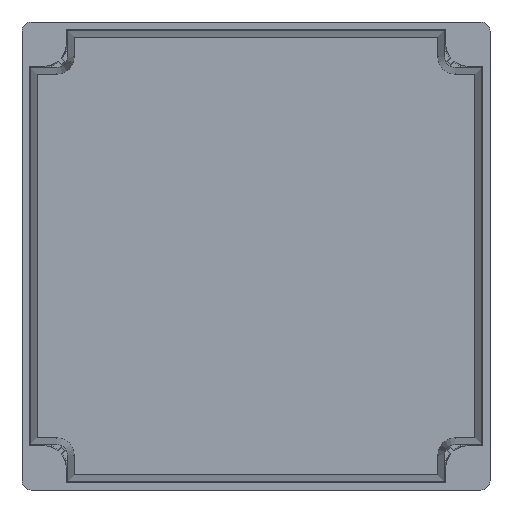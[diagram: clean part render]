
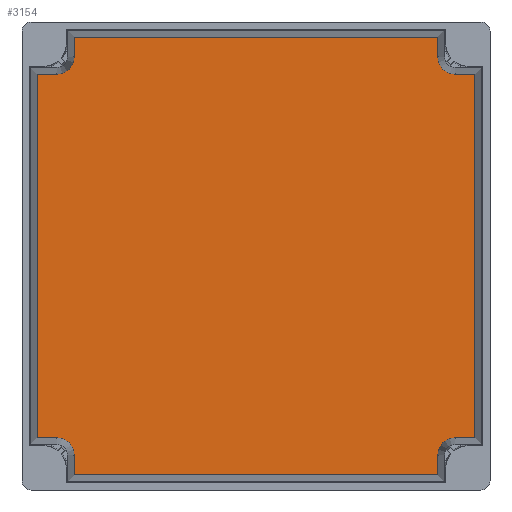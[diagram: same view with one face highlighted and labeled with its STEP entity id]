
A CAD part, front view. The second image highlights one B-rep face of the part: STEP entity #3154.
In plain terms, the highlighted planar face has unit normal (0, -1, 0).
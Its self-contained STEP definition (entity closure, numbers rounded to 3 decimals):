
#3154 = ADVANCED_FACE ( 'NONE', ( #5078 ), #5072, .F. ) ;
#3155 = EDGE_LOOP ( 'NONE', ( #3156, #3160, #3163, #3166, #3169, #3172, #3175, #3178, #3181, #3184, #3187, #3190, #3193, #3197, #3200, #3203 ) ) ;
#3156 = ORIENTED_EDGE ( 'NONE', *, *, #3157, .T. ) ;
#3157 = EDGE_CURVE ( 'NONE', #3158, #3159, #5034, .T. ) ;
#3158 = VERTEX_POINT ( 'NONE', #5030 ) ;
#3159 = VERTEX_POINT ( 'NONE', #5029 ) ;
#3160 = ORIENTED_EDGE ( 'NONE', *, *, #3161, .T. ) ;
#3161 = EDGE_CURVE ( 'NONE', #3159, #3162, #5028, .T. ) ;
#3162 = VERTEX_POINT ( 'NONE', #5024 ) ;
#3163 = ORIENTED_EDGE ( 'NONE', *, *, #3164, .T. ) ;
#3164 = EDGE_CURVE ( 'NONE', #3162, #3165, #5023, .T. ) ;
#3165 = VERTEX_POINT ( 'NONE', #5019 ) ;
#3166 = ORIENTED_EDGE ( 'NONE', *, *, #3167, .T. ) ;
#3167 = EDGE_CURVE ( 'NONE', #3165, #3168, #5018, .T. ) ;
#3168 = VERTEX_POINT ( 'NONE', #5014 ) ;
#3169 = ORIENTED_EDGE ( 'NONE', *, *, #3170, .T. ) ;
#3170 = EDGE_CURVE ( 'NONE', #3168, #3171, #5013, .T. ) ;
#3171 = VERTEX_POINT ( 'NONE', #5008 ) ;
#3172 = ORIENTED_EDGE ( 'NONE', *, *, #3173, .T. ) ;
#3173 = EDGE_CURVE ( 'NONE', #3171, #3174, #5007, .T. ) ;
#3174 = VERTEX_POINT ( 'NONE', #5003 ) ;
#3175 = ORIENTED_EDGE ( 'NONE', *, *, #3176, .T. ) ;
#3176 = EDGE_CURVE ( 'NONE', #3174, #3177, #5002, .T. ) ;
#3177 = VERTEX_POINT ( 'NONE', #4998 ) ;
#3178 = ORIENTED_EDGE ( 'NONE', *, *, #3179, .T. ) ;
#3179 = EDGE_CURVE ( 'NONE', #3177, #3180, #4997, .T. ) ;
#3180 = VERTEX_POINT ( 'NONE', #4993 ) ;
#3181 = ORIENTED_EDGE ( 'NONE', *, *, #3182, .T. ) ;
#3182 = EDGE_CURVE ( 'NONE', #3180, #3183, #4992, .T. ) ;
#3183 = VERTEX_POINT ( 'NONE', #5045 ) ;
#3184 = ORIENTED_EDGE ( 'NONE', *, *, #3185, .T. ) ;
#3185 = EDGE_CURVE ( 'NONE', #3183, #3186, #5044, .T. ) ;
#3186 = VERTEX_POINT ( 'NONE', #5040 ) ;
#3187 = ORIENTED_EDGE ( 'NONE', *, *, #3188, .T. ) ;
#3188 = EDGE_CURVE ( 'NONE', #3186, #3189, #5039, .T. ) ;
#3189 = VERTEX_POINT ( 'NONE', #5035 ) ;
#3190 = ORIENTED_EDGE ( 'NONE', *, *, #3191, .T. ) ;
#3191 = EDGE_CURVE ( 'NONE', #3189, #3192, #4988, .T. ) ;
#3192 = VERTEX_POINT ( 'NONE', #4984 ) ;
#3193 = ORIENTED_EDGE ( 'NONE', *, *, #3195, .T. ) ;
#3195 = EDGE_CURVE ( 'NONE', #3192, #3196, #4983, .T. ) ;
#3196 = VERTEX_POINT ( 'NONE', #4978 ) ;
#3197 = ORIENTED_EDGE ( 'NONE', *, *, #3198, .T. ) ;
#3198 = EDGE_CURVE ( 'NONE', #3196, #3199, #4977, .T. ) ;
#3199 = VERTEX_POINT ( 'NONE', #4973 ) ;
#3200 = ORIENTED_EDGE ( 'NONE', *, *, #3201, .T. ) ;
#3201 = EDGE_CURVE ( 'NONE', #3199, #3202, #4972, .T. ) ;
#3202 = VERTEX_POINT ( 'NONE', #4968 ) ;
#3203 = ORIENTED_EDGE ( 'NONE', *, *, #3204, .T. ) ;
#3204 = EDGE_CURVE ( 'NONE', #3202, #3158, #4967, .T. ) ;
#4964 = DIRECTION ( 'NONE',  ( -1., 0., 0. ) ) ;
#4965 = VECTOR ( 'NONE', #4964, 1000. ) ;
#4966 = CARTESIAN_POINT ( 'NONE',  ( 86.779, 73.6, 69.935 ) ) ;
#4967 = LINE ( 'NONE', #4966, #4965 ) ;
#4968 = CARTESIAN_POINT ( 'NONE',  ( 84.185, 73.6, 69.935 ) ) ;
#4969 = DIRECTION ( 'NONE',  ( 0., 0., 1. ) ) ;
#4970 = VECTOR ( 'NONE', #4969, 1000. ) ;
#4971 = CARTESIAN_POINT ( 'NONE',  ( 84.185, 73.6, -72.529 ) ) ;
#4972 = LINE ( 'NONE', #4971, #4970 ) ;
#4973 = CARTESIAN_POINT ( 'NONE',  ( 84.185, 73.6, -69.935 ) ) ;
#4974 = DIRECTION ( 'NONE',  ( 1., 0., 0. ) ) ;
#4975 = VECTOR ( 'NONE', #4974, 1000. ) ;
#4976 = CARTESIAN_POINT ( 'NONE',  ( 86.779, 73.6, -69.935 ) ) ;
#4977 = LINE ( 'NONE', #4976, #4975 ) ;
#4978 = CARTESIAN_POINT ( 'NONE',  ( 76.634, 73.6, -69.935 ) ) ;
#4979 = DIRECTION ( 'NONE',  ( 0., 0., 1. ) ) ;
#4980 = DIRECTION ( 'NONE',  ( 0., 1., 0. ) ) ;
#4981 = CARTESIAN_POINT ( 'NONE',  ( 76.634, 73.6, -76.634 ) ) ;
#4982 = AXIS2_PLACEMENT_3D ( 'NONE', #4981, #4980, #4979 ) ;
#4983 = CIRCLE ( 'NONE', #4982, 6.699 ) ;
#4984 = CARTESIAN_POINT ( 'NONE',  ( 69.935, 73.6, -76.634 ) ) ;
#4985 = DIRECTION ( 'NONE',  ( 0., 0., 1. ) ) ;
#4986 = VECTOR ( 'NONE', #4985, 1000. ) ;
#4987 = CARTESIAN_POINT ( 'NONE',  ( 69.935, 73.6, -76.634 ) ) ;
#4988 = LINE ( 'NONE', #4987, #4986 ) ;
#4989 = DIRECTION ( 'NONE',  ( 0., 1., 0. ) ) ;
#4990 = CARTESIAN_POINT ( 'NONE',  ( -76.634, 73.6, -76.634 ) ) ;
#4991 = AXIS2_PLACEMENT_3D ( 'NONE', #4990, #4989, #5046 ) ;
#4992 = CIRCLE ( 'NONE', #4991, 6.699 ) ;
#4993 = CARTESIAN_POINT ( 'NONE',  ( -76.634, 73.6, -69.935 ) ) ;
#4994 = DIRECTION ( 'NONE',  ( 1., 0., 0. ) ) ;
#4995 = VECTOR ( 'NONE', #4994, 1000. ) ;
#4996 = CARTESIAN_POINT ( 'NONE',  ( -86.779, 73.6, -69.935 ) ) ;
#4997 = LINE ( 'NONE', #4996, #4995 ) ;
#4998 = CARTESIAN_POINT ( 'NONE',  ( -84.185, 73.6, -69.935 ) ) ;
#4999 = DIRECTION ( 'NONE',  ( 0., 0., -1. ) ) ;
#5000 = VECTOR ( 'NONE', #4999, 1000. ) ;
#5001 = CARTESIAN_POINT ( 'NONE',  ( -84.185, 73.6, 72.529 ) ) ;
#5002 = LINE ( 'NONE', #5001, #5000 ) ;
#5003 = CARTESIAN_POINT ( 'NONE',  ( -84.185, 73.6, 69.935 ) ) ;
#5004 = DIRECTION ( 'NONE',  ( -1., 0., 0. ) ) ;
#5005 = VECTOR ( 'NONE', #5004, 1000. ) ;
#5006 = CARTESIAN_POINT ( 'NONE',  ( -86.779, 73.6, 69.935 ) ) ;
#5007 = LINE ( 'NONE', #5006, #5005 ) ;
#5008 = CARTESIAN_POINT ( 'NONE',  ( -76.634, 73.6, 69.935 ) ) ;
#5009 = DIRECTION ( 'NONE',  ( 0., 0., 1. ) ) ;
#5010 = DIRECTION ( 'NONE',  ( 0., 1., 0. ) ) ;
#5011 = CARTESIAN_POINT ( 'NONE',  ( -76.634, 73.6, 76.634 ) ) ;
#5012 = AXIS2_PLACEMENT_3D ( 'NONE', #5011, #5010, #5009 ) ;
#5013 = CIRCLE ( 'NONE', #5012, 6.699 ) ;
#5014 = CARTESIAN_POINT ( 'NONE',  ( -69.935, 73.6, 76.634 ) ) ;
#5015 = DIRECTION ( 'NONE',  ( 0., 0., -1. ) ) ;
#5016 = VECTOR ( 'NONE', #5015, 1000. ) ;
#5017 = CARTESIAN_POINT ( 'NONE',  ( -69.935, 73.6, 76.634 ) ) ;
#5018 = LINE ( 'NONE', #5017, #5016 ) ;
#5019 = CARTESIAN_POINT ( 'NONE',  ( -69.935, 73.6, 84.185 ) ) ;
#5020 = DIRECTION ( 'NONE',  ( -1., 0., 0. ) ) ;
#5021 = VECTOR ( 'NONE', #5020, 1000. ) ;
#5022 = CARTESIAN_POINT ( 'NONE',  ( 72.529, 73.6, 84.185 ) ) ;
#5023 = LINE ( 'NONE', #5022, #5021 ) ;
#5024 = CARTESIAN_POINT ( 'NONE',  ( 69.935, 73.6, 84.185 ) ) ;
#5025 = DIRECTION ( 'NONE',  ( 0., 0., 1. ) ) ;
#5026 = VECTOR ( 'NONE', #5025, 1000. ) ;
#5027 = CARTESIAN_POINT ( 'NONE',  ( 69.935, 73.6, 76.634 ) ) ;
#5028 = LINE ( 'NONE', #5027, #5026 ) ;
#5029 = CARTESIAN_POINT ( 'NONE',  ( 69.935, 73.6, 76.634 ) ) ;
#5030 = CARTESIAN_POINT ( 'NONE',  ( 76.634, 73.6, 69.935 ) ) ;
#5031 = DIRECTION ( 'NONE',  ( 0., 0., 1. ) ) ;
#5032 = DIRECTION ( 'NONE',  ( 0., 1., 0. ) ) ;
#5033 = AXIS2_PLACEMENT_3D ( 'NONE', #5067, #5032, #5031 ) ;
#5034 = CIRCLE ( 'NONE', #5033, 6.699 ) ;
#5035 = CARTESIAN_POINT ( 'NONE',  ( 69.935, 73.6, -84.185 ) ) ;
#5036 = DIRECTION ( 'NONE',  ( 1., 0., 0. ) ) ;
#5037 = VECTOR ( 'NONE', #5036, 1000. ) ;
#5038 = CARTESIAN_POINT ( 'NONE',  ( -72.529, 73.6, -84.185 ) ) ;
#5039 = LINE ( 'NONE', #5038, #5037 ) ;
#5040 = CARTESIAN_POINT ( 'NONE',  ( -69.935, 73.6, -84.185 ) ) ;
#5041 = DIRECTION ( 'NONE',  ( 0., 0., -1. ) ) ;
#5042 = VECTOR ( 'NONE', #5041, 1000. ) ;
#5043 = CARTESIAN_POINT ( 'NONE',  ( -69.935, 73.6, -76.634 ) ) ;
#5044 = LINE ( 'NONE', #5043, #5042 ) ;
#5045 = CARTESIAN_POINT ( 'NONE',  ( -69.935, 73.6, -76.634 ) ) ;
#5046 = DIRECTION ( 'NONE',  ( 0., 0., 1. ) ) ;
#5067 = CARTESIAN_POINT ( 'NONE',  ( 76.634, 73.6, 76.634 ) ) ;
#5068 = DIRECTION ( 'NONE',  ( 0., 0., 1. ) ) ;
#5069 = DIRECTION ( 'NONE',  ( 0., 1., 0. ) ) ;
#5070 = CARTESIAN_POINT ( 'NONE',  ( -81.75, 73.6, -81.75 ) ) ;
#5071 = AXIS2_PLACEMENT_3D ( 'NONE', #5070, #5069, #5068 ) ;
#5072 = PLANE ( 'NONE',  #5071 ) ;
#5078 = FACE_OUTER_BOUND ( 'NONE', #3155, .T. ) ;
